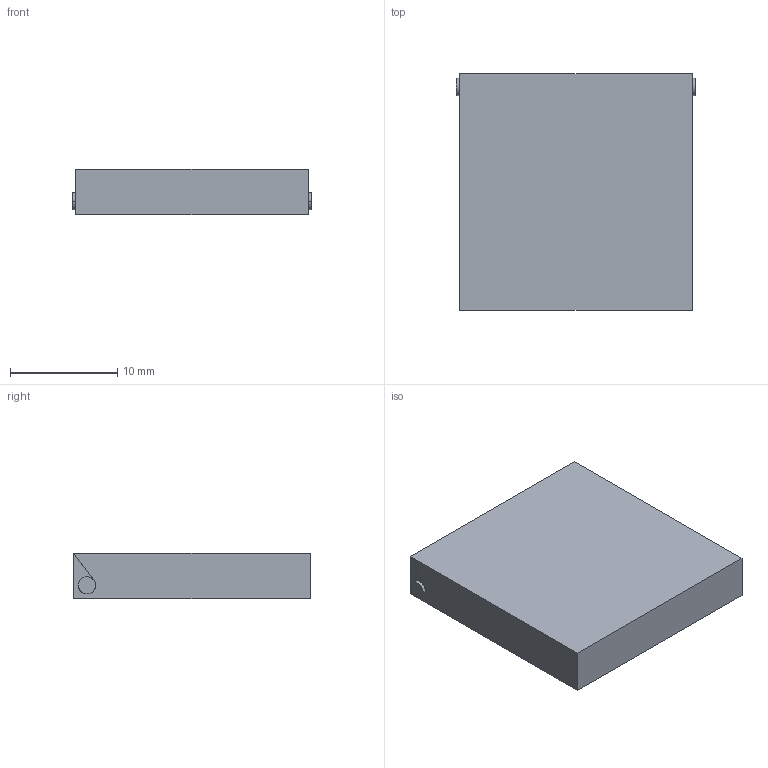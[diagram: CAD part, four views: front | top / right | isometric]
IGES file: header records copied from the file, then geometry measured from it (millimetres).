
Start section:  PTC IGES file: j5d-cov-cn7.igs
Global section: file name: j5d-cov-cn7.igs; native system: Creo Parametric by PTC Inc.; preprocessor: 2020184; author: VX25986; organization: Unknown; date: 20210323.200202; units: millimetre
Bounding box: 22.3 x 22.1 x 4.25 mm (x, y, z)
Surface area: 1542.4 mm2 (no closed solid volume)
Topology: 0 solids, 0 shells, 17 faces, 72 edges, 72 vertices
Faces by surface type: bspline 17
